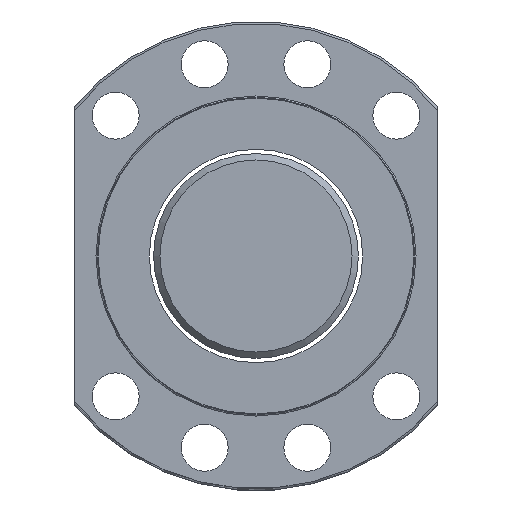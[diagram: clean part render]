
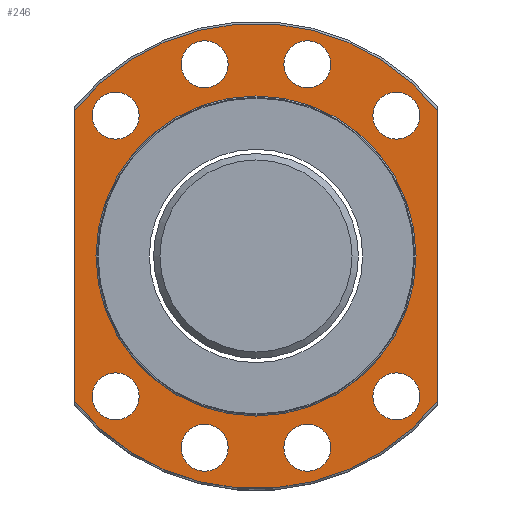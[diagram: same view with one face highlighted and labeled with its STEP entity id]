
A CAD part, left-side view. The second image highlights one B-rep face of the part: STEP entity #246.
In plain terms, the highlighted planar face has unit normal (-1, 0, 0).
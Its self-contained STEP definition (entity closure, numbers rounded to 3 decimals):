
#109=PLANE('',#788);
#125=FACE_BOUND('',#328,.T.);
#126=FACE_BOUND('',#329,.T.);
#127=FACE_BOUND('',#330,.T.);
#128=FACE_BOUND('',#331,.T.);
#129=FACE_BOUND('',#332,.T.);
#130=FACE_BOUND('',#333,.T.);
#131=FACE_BOUND('',#334,.T.);
#132=FACE_BOUND('',#335,.T.);
#133=FACE_BOUND('',#336,.T.);
#229=LINE('',#1212,#237);
#230=LINE('',#1213,#238);
#237=VECTOR('',#915,1.);
#238=VECTOR('',#916,1.);
#246=ADVANCED_FACE('',(#125,#126,#127,#128,#129,#130,#131,#132,#133,#304),
#109,.F.);
#304=FACE_OUTER_BOUND('',#337,.T.);
#328=EDGE_LOOP('',(#449));
#329=EDGE_LOOP('',(#450));
#330=EDGE_LOOP('',(#451));
#331=EDGE_LOOP('',(#452));
#332=EDGE_LOOP('',(#453));
#333=EDGE_LOOP('',(#454));
#334=EDGE_LOOP('',(#455));
#335=EDGE_LOOP('',(#456));
#336=EDGE_LOOP('',(#457));
#337=EDGE_LOOP('',(#458,#459,#460,#461));
#449=ORIENTED_EDGE('',*,*,#654,.F.);
#450=ORIENTED_EDGE('',*,*,#655,.T.);
#451=ORIENTED_EDGE('',*,*,#656,.T.);
#452=ORIENTED_EDGE('',*,*,#657,.T.);
#453=ORIENTED_EDGE('',*,*,#658,.T.);
#454=ORIENTED_EDGE('',*,*,#659,.T.);
#455=ORIENTED_EDGE('',*,*,#660,.T.);
#456=ORIENTED_EDGE('',*,*,#661,.T.);
#457=ORIENTED_EDGE('',*,*,#662,.T.);
#458=ORIENTED_EDGE('',*,*,#663,.T.);
#459=ORIENTED_EDGE('',*,*,#664,.T.);
#460=ORIENTED_EDGE('',*,*,#642,.T.);
#461=ORIENTED_EDGE('',*,*,#665,.F.);
#579=VERTEX_POINT('',#1093);
#580=VERTEX_POINT('',#1094);
#591=VERTEX_POINT('',#1192);
#592=VERTEX_POINT('',#1194);
#593=VERTEX_POINT('',#1196);
#594=VERTEX_POINT('',#1198);
#595=VERTEX_POINT('',#1200);
#596=VERTEX_POINT('',#1202);
#597=VERTEX_POINT('',#1204);
#598=VERTEX_POINT('',#1206);
#599=VERTEX_POINT('',#1208);
#600=VERTEX_POINT('',#1210);
#601=VERTEX_POINT('',#1211);
#642=EDGE_CURVE('',#579,#580,#713,.T.);
#654=EDGE_CURVE('',#591,#591,#719,.T.);
#655=EDGE_CURVE('',#592,#592,#720,.T.);
#656=EDGE_CURVE('',#593,#593,#721,.T.);
#657=EDGE_CURVE('',#594,#594,#722,.T.);
#658=EDGE_CURVE('',#595,#595,#723,.T.);
#659=EDGE_CURVE('',#596,#596,#724,.T.);
#660=EDGE_CURVE('',#597,#597,#725,.T.);
#661=EDGE_CURVE('',#598,#598,#726,.T.);
#662=EDGE_CURVE('',#599,#599,#727,.T.);
#663=EDGE_CURVE('',#600,#601,#728,.T.);
#664=EDGE_CURVE('',#601,#579,#229,.T.);
#665=EDGE_CURVE('',#600,#580,#230,.T.);
#713=CIRCLE('',#769,54.5);
#719=CIRCLE('',#778,37.5);
#720=CIRCLE('',#779,5.5);
#721=CIRCLE('',#780,5.5);
#722=CIRCLE('',#781,5.5);
#723=CIRCLE('',#782,5.5);
#724=CIRCLE('',#783,5.5);
#725=CIRCLE('',#784,5.5);
#726=CIRCLE('',#785,5.5);
#727=CIRCLE('',#786,5.5);
#728=CIRCLE('',#787,54.5);
#769=AXIS2_PLACEMENT_3D('',#1092,#875,#876);
#778=AXIS2_PLACEMENT_3D('',#1191,#895,#896);
#779=AXIS2_PLACEMENT_3D('',#1193,#897,#898);
#780=AXIS2_PLACEMENT_3D('',#1195,#899,#900);
#781=AXIS2_PLACEMENT_3D('',#1197,#901,#902);
#782=AXIS2_PLACEMENT_3D('',#1199,#903,#904);
#783=AXIS2_PLACEMENT_3D('',#1201,#905,#906);
#784=AXIS2_PLACEMENT_3D('',#1203,#907,#908);
#785=AXIS2_PLACEMENT_3D('',#1205,#909,#910);
#786=AXIS2_PLACEMENT_3D('',#1207,#911,#912);
#787=AXIS2_PLACEMENT_3D('',#1209,#913,#914);
#788=AXIS2_PLACEMENT_3D('',#1214,#917,#918);
#875=DIRECTION('',(-1.,0.,0.));
#876=DIRECTION('',(0.,-1.,0.));
#895=DIRECTION('',(-1.,0.,0.));
#896=DIRECTION('',(0.,-1.,0.));
#897=DIRECTION('',(1.,0.,0.));
#898=DIRECTION('',(0.,1.,0.));
#899=DIRECTION('',(1.,0.,0.));
#900=DIRECTION('',(0.,1.,0.));
#901=DIRECTION('',(1.,0.,0.));
#902=DIRECTION('',(0.,1.,0.));
#903=DIRECTION('',(1.,0.,0.));
#904=DIRECTION('',(0.,1.,0.));
#905=DIRECTION('',(1.,0.,0.));
#906=DIRECTION('',(0.,1.,0.));
#907=DIRECTION('',(1.,0.,0.));
#908=DIRECTION('',(0.,1.,0.));
#909=DIRECTION('',(1.,0.,0.));
#910=DIRECTION('',(0.,1.,0.));
#911=DIRECTION('',(1.,0.,0.));
#912=DIRECTION('',(0.,1.,0.));
#913=DIRECTION('',(-1.,0.,0.));
#914=DIRECTION('',(0.,-1.,0.));
#915=DIRECTION('',(0.,0.,-1.));
#916=DIRECTION('',(0.,0.,-1.));
#917=DIRECTION('',(1.,0.,0.));
#918=DIRECTION('',(0.,1.,0.));
#1092=CARTESIAN_POINT('',(-38.001,0.,0.));
#1093=CARTESIAN_POINT('',(-38.001,42.5,-34.118));
#1094=CARTESIAN_POINT('',(-38.001,-42.5,-34.118));
#1191=CARTESIAN_POINT('',(-38.001,0.,0.));
#1192=CARTESIAN_POINT('',(-38.001,-37.5,0.));
#1193=CARTESIAN_POINT('',(-38.001,12.035,44.916));
#1194=CARTESIAN_POINT('',(-38.001,17.535,44.916));
#1195=CARTESIAN_POINT('',(-38.001,-12.035,44.916));
#1196=CARTESIAN_POINT('',(-38.001,-6.535,44.916));
#1197=CARTESIAN_POINT('',(-38.001,-12.035,-44.916));
#1198=CARTESIAN_POINT('',(-38.001,-6.535,-44.916));
#1199=CARTESIAN_POINT('',(-38.001,12.035,-44.916));
#1200=CARTESIAN_POINT('',(-38.001,17.535,-44.916));
#1201=CARTESIAN_POINT('',(-38.001,-32.88,32.881));
#1202=CARTESIAN_POINT('',(-38.001,-27.38,32.881));
#1203=CARTESIAN_POINT('',(-38.001,-32.88,-32.881));
#1204=CARTESIAN_POINT('',(-38.001,-27.38,-32.881));
#1205=CARTESIAN_POINT('',(-38.001,32.881,32.881));
#1206=CARTESIAN_POINT('',(-38.001,38.381,32.881));
#1207=CARTESIAN_POINT('',(-38.001,32.881,-32.881));
#1208=CARTESIAN_POINT('',(-38.001,38.381,-32.881));
#1209=CARTESIAN_POINT('',(-38.001,0.,0.));
#1210=CARTESIAN_POINT('',(-38.001,-42.5,34.118));
#1211=CARTESIAN_POINT('',(-38.001,42.5,34.118));
#1212=CARTESIAN_POINT('',(-38.001,42.5,0.));
#1213=CARTESIAN_POINT('',(-38.001,-42.5,0.));
#1214=CARTESIAN_POINT('',(-38.001,46.,0.));
